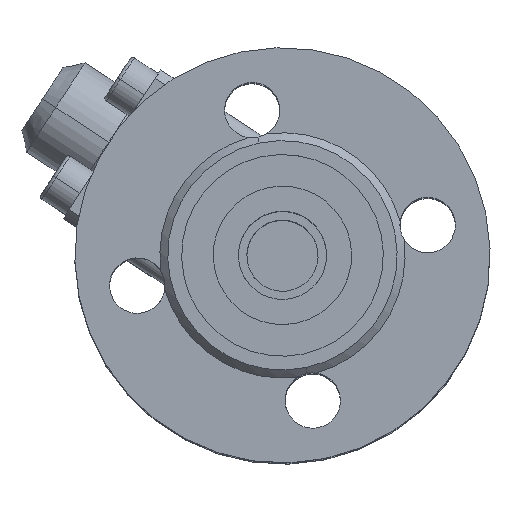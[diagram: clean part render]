
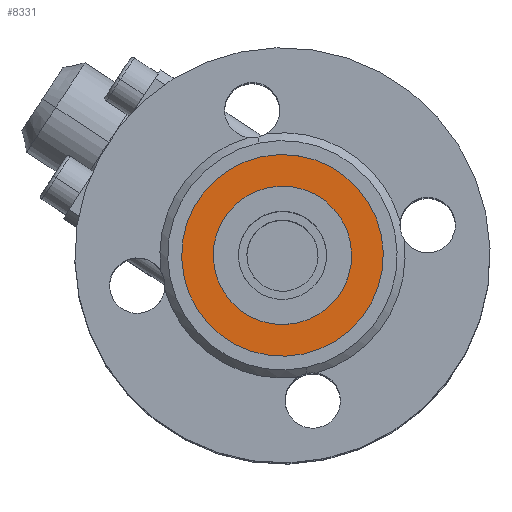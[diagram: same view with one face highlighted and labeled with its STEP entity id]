
A CAD part, top view. The second image highlights one B-rep face of the part: STEP entity #8331.
In plain terms, the highlighted planar face has unit normal (0, 0, 1) as drawn and (0, -1, 0) by its records, which use the part's own axes.
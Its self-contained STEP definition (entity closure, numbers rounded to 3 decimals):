
#16554 = CIRCLE ( 'NONE', #16555, 25.5 ) ;
#16555 = AXIS2_PLACEMENT_3D ( 'NONE', #16556, #16557, #16558 ) ;
#16556 = CARTESIAN_POINT ( 'NONE',  ( 0., 2.5, 0. ) ) ;
#16557 = DIRECTION ( 'NONE',  ( 0., -1., 0. ) ) ;
#16558 = DIRECTION ( 'NONE',  ( 1., 0., 0. ) ) ;
#852 = ORIENTED_EDGE ( 'NONE', *, *, #9591, .T. ) ;
#1350 = ORIENTED_EDGE ( 'NONE', *, *, #2885, .T. ) ;
#1856 = EDGE_LOOP ( 'NONE', ( #1350, #852 ) ) ;
#2086 = EDGE_CURVE ( 'NONE', #18511, #18717, #2223, .T. ) ;
#18511 = VERTEX_POINT ( 'NONE', #7727 ) ;
#2223 = CIRCLE ( 'NONE', #2224, 17.5 ) ;
#2224 = AXIS2_PLACEMENT_3D ( 'NONE', #2225, #2226, #2227 ) ;
#2225 = CARTESIAN_POINT ( 'NONE',  ( 0., 2.5, 0. ) ) ;
#2226 = DIRECTION ( 'NONE',  ( 0., -1., 0. ) ) ;
#2227 = DIRECTION ( 'NONE',  ( 1., 0., 0. ) ) ;
#18717 = VERTEX_POINT ( 'NONE', #8555 ) ;
#2410 = ORIENTED_EDGE ( 'NONE', *, *, #2086, .F. ) ;
#18938 = EDGE_CURVE ( 'NONE', #18717, #18511, #8835, .T. ) ;
#2719 = VERTEX_POINT ( 'NONE', #3458 ) ;
#2885 = EDGE_CURVE ( 'NONE', #2719, #8734, #3748, .T. ) ;
#3458 = CARTESIAN_POINT ( 'NONE',  ( 25.5, 2.5, 0. ) ) ;
#3748 = CIRCLE ( 'NONE', #3749, 25.5 ) ;
#3749 = AXIS2_PLACEMENT_3D ( 'NONE', #3750, #3751, #3752 ) ;
#3750 = CARTESIAN_POINT ( 'NONE',  ( 0., 2.5, 0. ) ) ;
#3751 = DIRECTION ( 'NONE',  ( 0., -1., 0. ) ) ;
#3752 = DIRECTION ( 'NONE',  ( 1., 0., 0. ) ) ;
#7456 = FACE_BOUND ( 'NONE', #8098, .T. ) ;
#7457 = FACE_OUTER_BOUND ( 'NONE', #1856, .T. ) ;
#7458 = PLANE ( 'NONE',  #7459 ) ;
#7459 = AXIS2_PLACEMENT_3D ( 'NONE', #7460, #7461, #7462 ) ;
#7460 = CARTESIAN_POINT ( 'NONE',  ( 0., 2.5, 0. ) ) ;
#7461 = DIRECTION ( 'NONE',  ( 0., -1., 0. ) ) ;
#7462 = DIRECTION ( 'NONE',  ( 1., 0., 0. ) ) ;
#7591 = ORIENTED_EDGE ( 'NONE', *, *, #18938, .F. ) ;
#7727 = CARTESIAN_POINT ( 'NONE',  ( -17.5, 2.5, 0. ) ) ;
#8098 = EDGE_LOOP ( 'NONE', ( #7591, #2410 ) ) ;
#8330 = CARTESIAN_POINT ( 'NONE',  ( -25.5, 2.5, 0. ) ) ;
#8331 = ADVANCED_FACE ( 'NONE', ( #7456, #7457 ), #7458, .T. ) ;
#8555 = CARTESIAN_POINT ( 'NONE',  ( 17.5, 2.5, 0. ) ) ;
#8734 = VERTEX_POINT ( 'NONE', #8330 ) ;
#8835 = CIRCLE ( 'NONE', #8836, 17.5 ) ;
#8836 = AXIS2_PLACEMENT_3D ( 'NONE', #8837, #8838, #8839 ) ;
#8837 = CARTESIAN_POINT ( 'NONE',  ( 0., 2.5, 0. ) ) ;
#8838 = DIRECTION ( 'NONE',  ( 0., -1., 0. ) ) ;
#8839 = DIRECTION ( 'NONE',  ( 1., 0., 0. ) ) ;
#9591 = EDGE_CURVE ( 'NONE', #8734, #2719, #16554, .T. ) ;
